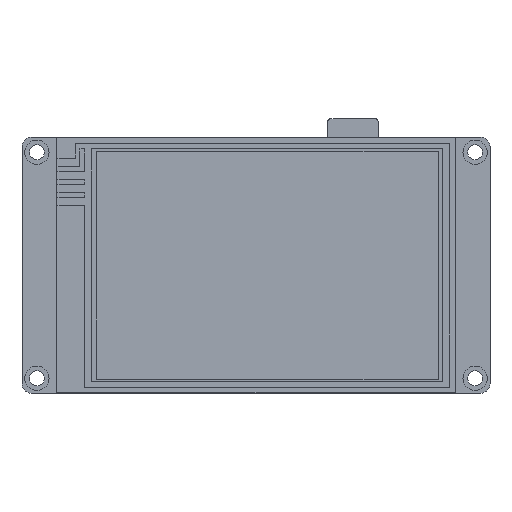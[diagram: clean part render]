
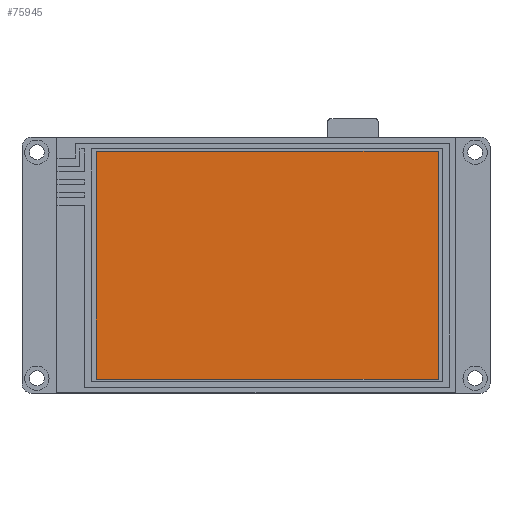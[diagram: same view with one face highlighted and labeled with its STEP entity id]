
A CAD part, top view. The second image highlights one B-rep face of the part: STEP entity #75945.
In plain terms, the highlighted planar face has unit normal (0, 0, 1).
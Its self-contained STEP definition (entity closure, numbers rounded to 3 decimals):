
#2237 = DIRECTION ( 'NONE',  ( -1., 0., 0. ) ) ;
#6239 = ORIENTED_EDGE ( 'NONE', *, *, #37101, .T. ) ;
#7342 = EDGE_CURVE ( 'NONE', #37884, #14006, #52126, .T. ) ;
#7717 = CARTESIAN_POINT ( 'NONE',  ( -34.31, 24.48, 5.65 ) ) ;
#11174 = FACE_OUTER_BOUND ( 'NONE', #82702, .T. ) ;
#12883 = DIRECTION ( 'NONE',  ( 1., 0., 0. ) ) ;
#14006 = VERTEX_POINT ( 'NONE', #29080 ) ;
#19370 = EDGE_CURVE ( 'NONE', #55954, #37884, #52553, .T. ) ;
#20264 = DIRECTION ( 'NONE',  ( 0., -1., 0. ) ) ;
#23057 = VECTOR ( 'NONE', #12883, 1000. ) ;
#24415 = VECTOR ( 'NONE', #2237, 1000. ) ;
#26465 = CARTESIAN_POINT ( 'NONE',  ( 39.13, -24.48, 5.65 ) ) ;
#26986 = DIRECTION ( 'NONE',  ( 0., 1., 0. ) ) ;
#29080 = CARTESIAN_POINT ( 'NONE',  ( -34.31, -24.48, 5.65 ) ) ;
#30042 = CARTESIAN_POINT ( 'NONE',  ( 0., 0., 5.65 ) ) ;
#36752 = DIRECTION ( 'NONE',  ( 0., 0., -1. ) ) ;
#37007 = ORIENTED_EDGE ( 'NONE', *, *, #39373, .T. ) ;
#37101 = EDGE_CURVE ( 'NONE', #14006, #71283, #74602, .T. ) ;
#37884 = VERTEX_POINT ( 'NONE', #59961 ) ;
#39373 = EDGE_CURVE ( 'NONE', #71283, #55954, #45089, .T. ) ;
#45089 = LINE ( 'NONE', #70305, #63611 ) ;
#45999 = CARTESIAN_POINT ( 'NONE',  ( -34.31, -24.48, 5.65 ) ) ;
#47687 = DIRECTION ( 'NONE',  ( 0., -1., 0. ) ) ;
#49335 = PLANE ( 'NONE',  #78551 ) ;
#52126 = LINE ( 'NONE', #77751, #65035 ) ;
#52553 = LINE ( 'NONE', #7717, #24415 ) ;
#55005 = ORIENTED_EDGE ( 'NONE', *, *, #7342, .T. ) ;
#55954 = VERTEX_POINT ( 'NONE', #70357 ) ;
#59961 = CARTESIAN_POINT ( 'NONE',  ( -34.31, 24.48, 5.65 ) ) ;
#63611 = VECTOR ( 'NONE', #26986, 1000. ) ;
#65035 = VECTOR ( 'NONE', #20264, 1000. ) ;
#68803 = ORIENTED_EDGE ( 'NONE', *, *, #19370, .T. ) ;
#70305 = CARTESIAN_POINT ( 'NONE',  ( 39.13, -24.48, 5.65 ) ) ;
#70357 = CARTESIAN_POINT ( 'NONE',  ( 39.13, 24.48, 5.65 ) ) ;
#71283 = VERTEX_POINT ( 'NONE', #26465 ) ;
#74602 = LINE ( 'NONE', #45999, #23057 ) ;
#75945 = ADVANCED_FACE ( 'NONE', ( #11174 ), #49335, .F. ) ;
#77751 = CARTESIAN_POINT ( 'NONE',  ( -34.31, -24.48, 5.65 ) ) ;
#78551 = AXIS2_PLACEMENT_3D ( 'NONE', #30042, #36752, #47687 ) ;
#82702 = EDGE_LOOP ( 'NONE', ( #37007, #68803, #55005, #6239 ) ) ;
